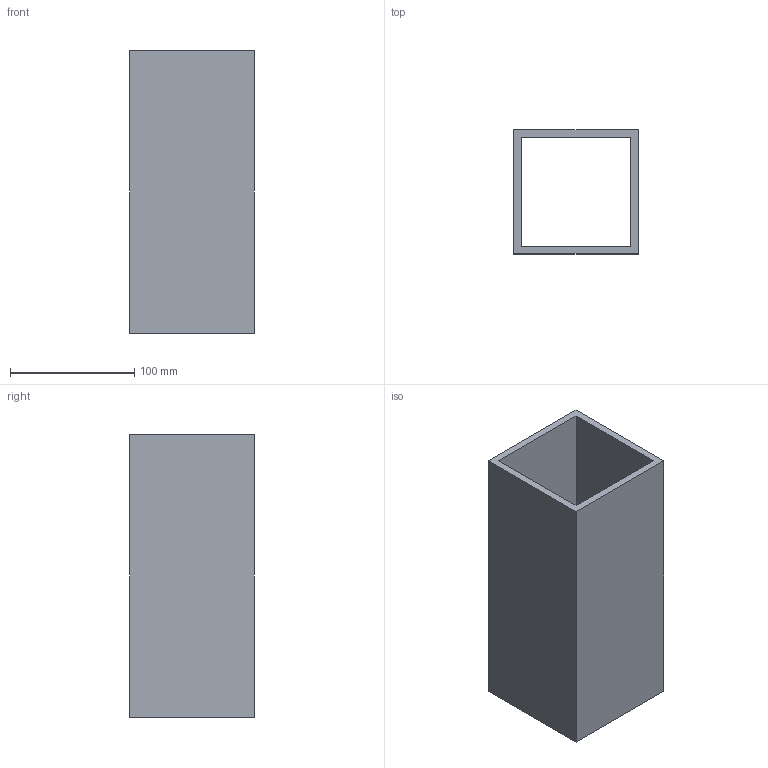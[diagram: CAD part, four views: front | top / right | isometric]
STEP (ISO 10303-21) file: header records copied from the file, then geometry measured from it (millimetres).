
FILE_DESCRIPTION(('Open CASCADE Model'),'2;1');
FILE_NAME('Open CASCADE Shape Model','2026-09-19T12:55:23',('Author'),( 'Open CASCADE'),'Open CASCADE STEP processor 7.9','Open CASCADE 7.9' ,'Unknown');
FILE_SCHEMA(('AUTOMOTIVE_DESIGN { 1 0 10303 214 1 1 1 1 }'));
Length unit declared in the file: millimetre
Products named in the file (1): Open CASCADE STEP translator 7.9 418
Bounding box: 100 x 100 x 227 mm (x, y, z)
Volume: 512112 mm3; surface area: 175216 mm2
Topology: 1 solids, 1 shells, 10 faces, 24 edges, 16 vertices
Faces by surface type: plane 10
Entity records: 614 total; most frequent: CARTESIAN_POINT 99, DIRECTION 94, LINE 72, VECTOR 72, ORIENTED_EDGE 48, PCURVE 48, DEFINITIONAL_REPRESENTATION 48, EDGE_CURVE 24
